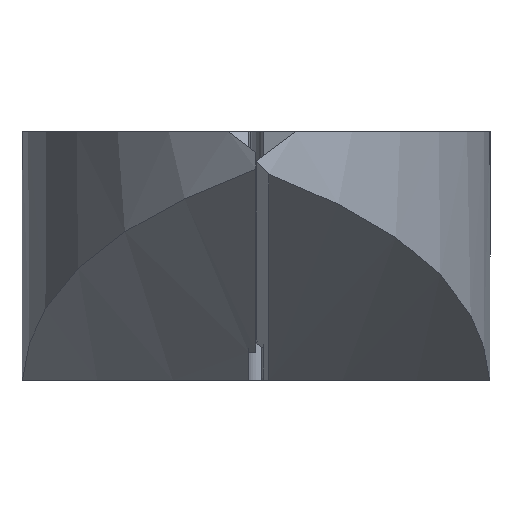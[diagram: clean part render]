
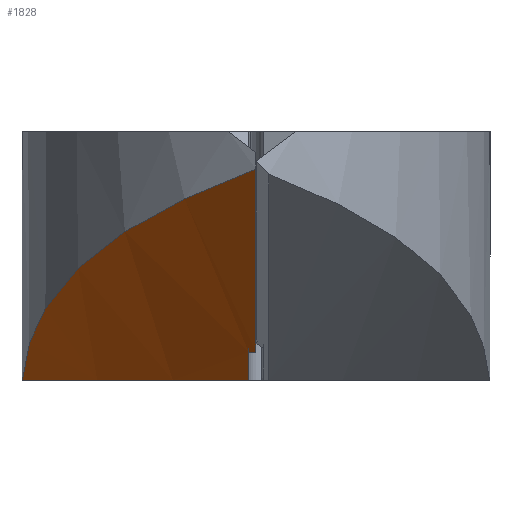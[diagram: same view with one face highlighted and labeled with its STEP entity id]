
A CAD part, left-side view. The second image highlights one B-rep face of the part: STEP entity #1828.
In plain terms, the highlighted cylindrical face has radius 85 mm (diameter 170 mm), a partial arc.
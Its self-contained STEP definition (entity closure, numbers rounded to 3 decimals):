
#18 = DIRECTION ( 'NONE',  ( 0.866, 0., -0.5 ) ) ;
#44 = CARTESIAN_POINT ( 'NONE',  ( -43., 0., -2.566 ) ) ;
#52 = ORIENTED_EDGE ( 'NONE', *, *, #1372, .F. ) ;
#64 = CARTESIAN_POINT ( 'NONE',  ( -25.556, 13.904, -11.316 ) ) ;
#243 = CYLINDRICAL_SURFACE ( 'NONE', #3798, 85. ) ;
#251 = VERTEX_POINT ( 'NONE', #5552 ) ;
#381 = CARTESIAN_POINT ( 'NONE',  ( -21.349, 0.333, -15.066 ) ) ;
#544 = CARTESIAN_POINT ( 'NONE',  ( -41.407, 2.464, -3.486 ) ) ;
#561 = CARTESIAN_POINT ( 'NONE',  ( -23.592, 14.552, -12.322 ) ) ;
#620 = EDGE_CURVE ( 'NONE', #2915, #4392, #2437, .T. ) ;
#661 = EDGE_CURVE ( 'NONE', #4947, #251, #797, .T. ) ;
#797 =( BOUNDED_CURVE ( )  B_SPLINE_CURVE ( 3, ( #2768, #2511, #3499, #5244 ),
 .UNSPECIFIED., .F., .T. ) 
 B_SPLINE_CURVE_WITH_KNOTS ( ( 4, 4 ),
 ( 2.953, 3.136 ),
 .UNSPECIFIED. ) 
 CURVE ( )  GEOMETRIC_REPRESENTATION_ITEM ( )  RATIONAL_B_SPLINE_CURVE ( ( 1., 0.997, 0.997, 1. ) ) 
 REPRESENTATION_ITEM ( '' )  );
#1030 = CARTESIAN_POINT ( 'NONE',  ( -36.937, 7.099, -5.725 ) ) ;
#1053 = CARTESIAN_POINT ( 'NONE',  ( -17.639, 15.869, -15.483 ) ) ;
#1372 = EDGE_CURVE ( 'NONE', #4359, #251, #6079, .T. ) ;
#1511 = CARTESIAN_POINT ( 'NONE',  ( -35.296, 8.478, -6.526 ) ) ;
#1630 = EDGE_LOOP ( 'NONE', ( #4427, #1720, #4701, #5797, #52 ) ) ;
#1720 = ORIENTED_EDGE ( 'NONE', *, *, #620, .T. ) ;
#1828 = ADVANCED_FACE ( 'NONE', ( #2805 ), #243, .T. ) ;
#1832 = DIRECTION ( 'NONE',  ( -0.866, 0., 0.5 ) ) ;
#1838 = CARTESIAN_POINT ( 'NONE',  ( -21.349, 0., -15.066 ) ) ;
#1895 = DIRECTION ( 'NONE',  ( 0.866, 0., -0.5 ) ) ;
#1972 = CARTESIAN_POINT ( 'NONE',  ( -43., 0., -2.566 ) ) ;
#1995 = CARTESIAN_POINT ( 'NONE',  ( -32.995, 10.174, -7.642 ) ) ;
#2379 = VECTOR ( 'NONE', #1895, 1000. ) ;
#2437 = LINE ( 'NONE', #4930, #3406 ) ;
#2477 = CARTESIAN_POINT ( 'NONE',  ( -29.366, 12.282, -9.411 ) ) ;
#2511 = CARTESIAN_POINT ( 'NONE',  ( -16.924, 10.869, -17. ) ) ;
#2768 = CARTESIAN_POINT ( 'NONE',  ( -14.971, 15.973, -17. ) ) ;
#2805 = FACE_OUTER_BOUND ( 'NONE', #1630, .T. ) ;
#2915 = VERTEX_POINT ( 'NONE', #6024 ) ;
#2954 = CARTESIAN_POINT ( 'NONE',  ( -26.201, 13.663, -10.989 ) ) ;
#3026 = B_SPLINE_CURVE_WITH_KNOTS ( 'NONE', 3,
 ( #44, #544, #3899, #1030, #4383, #1511, #4875, #1995, #5366, #2477, #5845, #2954, #64, #3437, #561, #3916, #1053, #4406 ),
 .UNSPECIFIED., .F., .F.,
 ( 4, 2, 2, 2, 2, 2, 2, 2, 4 ),
 ( 0., 0.009, 0.011, 0.014, 0.018, 0.023, 0.025, 0.027, 0.036 ),
 .UNSPECIFIED. ) ;
#3268 = CARTESIAN_POINT ( 'NONE',  ( -21.349, 0.5, -15.065 ) ) ;
#3368 = DIRECTION ( 'NONE',  ( -0.5, 0., -0.866 ) ) ;
#3406 = VECTOR ( 'NONE', #1832, 1000. ) ;
#3437 = CARTESIAN_POINT ( 'NONE',  ( -24.252, 14.349, -11.982 ) ) ;
#3499 = CARTESIAN_POINT ( 'NONE',  ( -17.936, 5.697, -17. ) ) ;
#3798 = AXIS2_PLACEMENT_3D ( 'NONE', #5798, #18, #3368 ) ;
#3899 = CARTESIAN_POINT ( 'NONE',  ( -39.55, 4.666, -4.436 ) ) ;
#3916 = CARTESIAN_POINT ( 'NONE',  ( -20.295, 15.464, -14.041 ) ) ;
#4232 = CARTESIAN_POINT ( 'NONE',  ( -21.349, 0.5, -15.065 ) ) ;
#4247 = CARTESIAN_POINT ( 'NONE',  ( -14.971, 15.973, -17. ) ) ;
#4359 = VERTEX_POINT ( 'NONE', #5805 ) ;
#4383 = CARTESIAN_POINT ( 'NONE',  ( -36.4, 7.57, -5.988 ) ) ;
#4392 = VERTEX_POINT ( 'NONE', #1972 ) ;
#4406 = CARTESIAN_POINT ( 'NONE',  ( -14.971, 15.973, -17. ) ) ;
#4427 = ORIENTED_EDGE ( 'NONE', *, *, #4919, .T. ) ;
#4701 = ORIENTED_EDGE ( 'NONE', *, *, #6097, .T. ) ;
#4727 = B_SPLINE_CURVE_WITH_KNOTS ( 'NONE', 3,
 ( #3268, #381, #4729, #1838 ),
 .UNSPECIFIED., .F., .F.,
 ( 4, 4 ),
 ( 0., 1. ),
 .UNSPECIFIED. ) ;
#4729 = CARTESIAN_POINT ( 'NONE',  ( -21.349, 0.167, -15.066 ) ) ;
#4875 = CARTESIAN_POINT ( 'NONE',  ( -34.728, 8.917, -6.802 ) ) ;
#4919 = EDGE_CURVE ( 'NONE', #4359, #2915, #4727, .T. ) ;
#4930 = CARTESIAN_POINT ( 'NONE',  ( -43.323, 0., -2.38 ) ) ;
#4947 = VERTEX_POINT ( 'NONE', #4247 ) ;
#5244 = CARTESIAN_POINT ( 'NONE',  ( -17.997, 0.5, -17. ) ) ;
#5366 = CARTESIAN_POINT ( 'NONE',  ( -31.805, 10.929, -8.218 ) ) ;
#5552 = CARTESIAN_POINT ( 'NONE',  ( -17.997, 0.5, -17. ) ) ;
#5797 = ORIENTED_EDGE ( 'NONE', *, *, #661, .T. ) ;
#5798 = CARTESIAN_POINT ( 'NONE',  ( -0.823, 0., 71.233 ) ) ;
#5805 = CARTESIAN_POINT ( 'NONE',  ( -21.349, 0.5, -15.065 ) ) ;
#5845 = CARTESIAN_POINT ( 'NONE',  ( -28.116, 12.88, -10.028 ) ) ;
#6024 = CARTESIAN_POINT ( 'NONE',  ( -21.349, 0., -15.066 ) ) ;
#6079 = LINE ( 'NONE', #4232, #2379 ) ;
#6097 = EDGE_CURVE ( 'NONE', #4392, #4947, #3026, .T. ) ;
